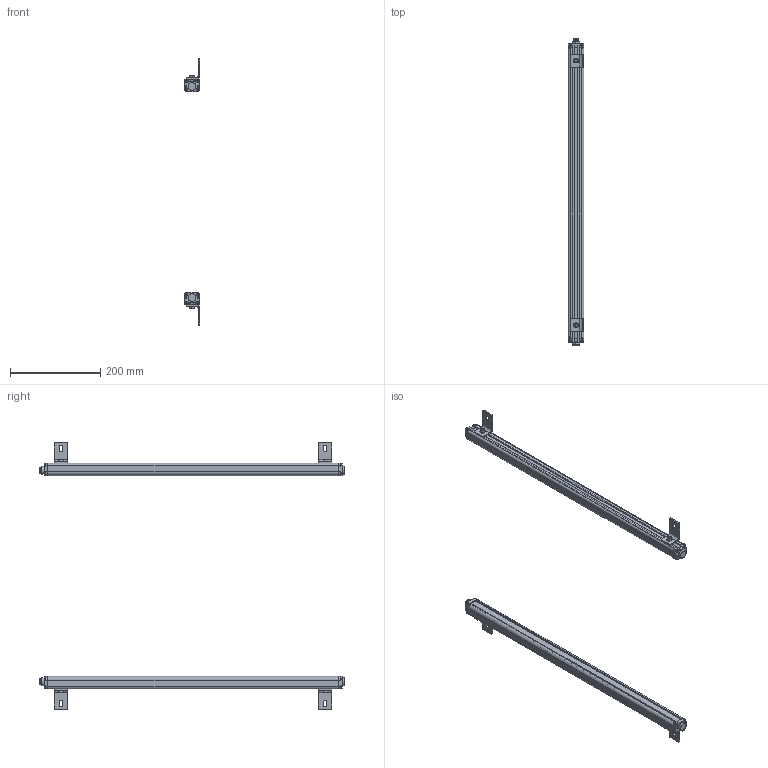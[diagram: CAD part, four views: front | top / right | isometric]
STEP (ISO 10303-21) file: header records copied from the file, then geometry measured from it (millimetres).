
FILE_DESCRIPTION (( 'STEP AP214' ), '1' );
FILE_NAME ('elg1640.STEP', '2018-03-08T12:05:46', ( '' ), ( '' ), 'SwSTEP 2.0', 'SolidWorks 2017', '' );
FILE_SCHEMA (( 'AUTOMOTIVE_DESIGN' ));
Length unit declared in the file: millimetre
Products named in the file (11): bz1-1640; lx-1640; glgdg-1640; hk-1640; hkct1-1640; elgdg03-1640; elgw-1640; elg1640; dlx-1640; lgp-1640; czzj-1640
Assembly tree (40 placements, depth 2):
  elg1640
    elgw-1640  x2
    bz1-1640  x2
    lgp-1640  x2
    glgdg-1640  x2
    elgdg03-1640  x2
    hkct1-1640  x2
    lx-1640  x16
    hk-1640  x4
    czzj-1640  x4
    dlx-1640  x4
Bounding box: 34.7 x 677.6 x 594 mm (x, y, z)
Volume: 483585.6 mm3; surface area: 510185.6 mm2
Topology: 40 solids, 40 shells, 2128 faces, 5576 edges, 3556 vertices
Faces by surface type: cylinder 1016, plane 688, bspline 424
Entity records: 142817 total; most frequent: CARTESIAN_POINT 128204, ORIENTED_EDGE 3092, DIRECTION 2738, EDGE_CURVE 1546, VERTEX_POINT 994, AXIS2_PLACEMENT_3D 989, LINE 760, VECTOR 760
